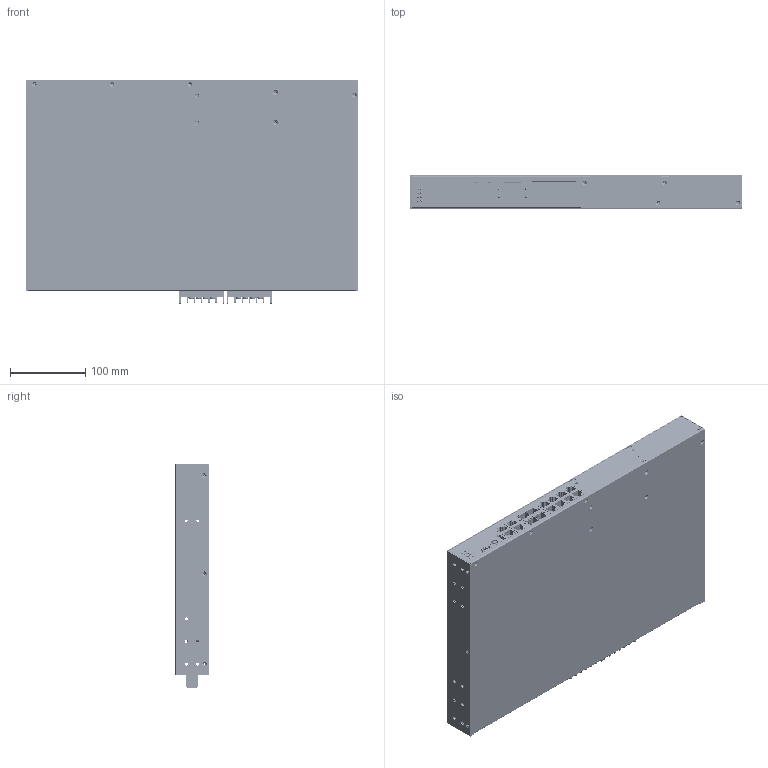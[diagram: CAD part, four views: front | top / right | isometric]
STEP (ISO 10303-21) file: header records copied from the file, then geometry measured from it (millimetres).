
FILE_DESCRIPTION((''),'2;1');
FILE_NAME('PRT0001','2013-06-23T',('Vincent_Huang'),(''),'PRO/ENGINEER BY PARAMETRIC TECHNOLOGY CORPORATION, 2004320','PRO/ENGINEER BY PARAMETRIC TECHNOLOGY CORPORATION, 2004320','');
FILE_SCHEMA(('CONFIG_CONTROL_DESIGN'));
Products named in the file (1): PRT0001
Bounding box: 440.2 x 44 x 296.8 mm (x, y, z)
Surface area: 1131718.8 mm2 (no closed solid volume)
Topology: 0 solids, 160 shells, 6160 faces, 14978 edges, 9594 vertices
Faces by surface type: plane 3773, cylinder 1711, cone 540, torus 96, bspline 32, extrusion 8
Entity records: 181325 total; most frequent: CARTESIAN_POINT 33048, DIRECTION 31592, ORIENTED_EDGE 29504, EDGE_CURVE 14862, AXIS2_PLACEMENT_3D 10858, VECTOR 9876, LINE 9868, VERTEX_POINT 9594
